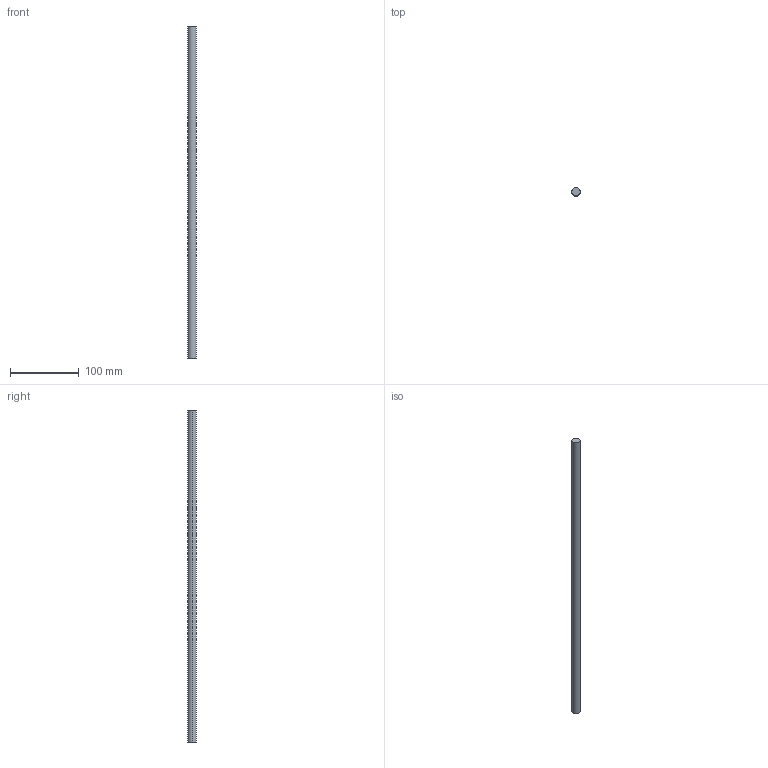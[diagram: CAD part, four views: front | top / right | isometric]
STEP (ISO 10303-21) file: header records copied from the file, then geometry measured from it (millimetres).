
FILE_DESCRIPTION (( 'STEP AP214' ), '1' );
FILE_NAME ('Innenschub H182 - S18_S19 - 600.step', '2010-09-07T14:56:02', ( 'grass' ), ( '' ), 'SwSTEP 2.0', 'SolidWorks 2010', '' );
FILE_SCHEMA (( 'AUTOMOTIVE_DESIGN' ));
Length unit declared in the file: millimetre
Products named in the file (1): Innenschub H182 - S18_S19 - 600
Bounding box: 12 x 12 x 483 mm (x, y, z)
Volume: 54626 mm3; surface area: 18434.9 mm2
Topology: 1 solids, 1 shells, 4 faces, 6 edges, 4 vertices
Faces by surface type: cylinder 2, plane 2
Entity records: 128 total; most frequent: DIRECTION 20, CARTESIAN_POINT 15, ORIENTED_EDGE 12, AXIS2_PLACEMENT_3D 9, EDGE_CURVE 6, ADVANCED_FACE 4, VERTEX_POINT 4, FACE_OUTER_BOUND 4
